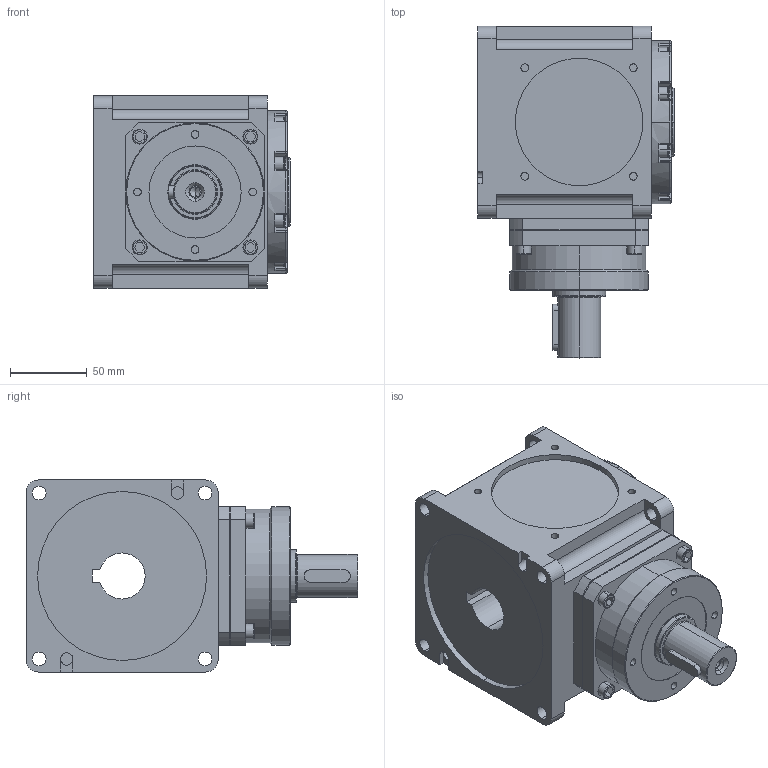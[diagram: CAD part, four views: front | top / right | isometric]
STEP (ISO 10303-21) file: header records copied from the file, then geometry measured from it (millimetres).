
FILE_DESCRIPTION (( 'STEP AP214' ), '1' );
FILE_NAME ('CCT125A-002-CR.STEP', '2025-05-23T05:56:38', ( '微软用户' ), ( '微软中国' ), 'SwSTEP 2.0', 'SolidWorks 2024', '' );
FILE_SCHEMA (( 'AUTOMOTIVE_DESIGN' ));
Length unit declared in the file: millimetre
Products named in the file (3): CCW125A输入组件; CCT125A-002-CR; CCW125A-002-CR箱体
Assembly tree (2 placements, depth 2):
  CCT125A-002-CR
    CCW125A-002-CR箱体
    CCW125A输入组件
Bounding box: 128 x 216 x 125 mm (x, y, z)
Volume: 1938045.9 mm3; surface area: 152784.2 mm2
Topology: 2 solids, 2 shells, 460 faces, 1100 edges, 682 vertices
Faces by surface type: plane 200, cylinder 179, torus 53, sphere 16, cone 12
Entity records: 13426 total; most frequent: DIRECTION 2492, CARTESIAN_POINT 2319, ORIENTED_EDGE 2164, EDGE_CURVE 1082, AXIS2_PLACEMENT_3D 955, VERTEX_POINT 682, LINE 582, VECTOR 582
